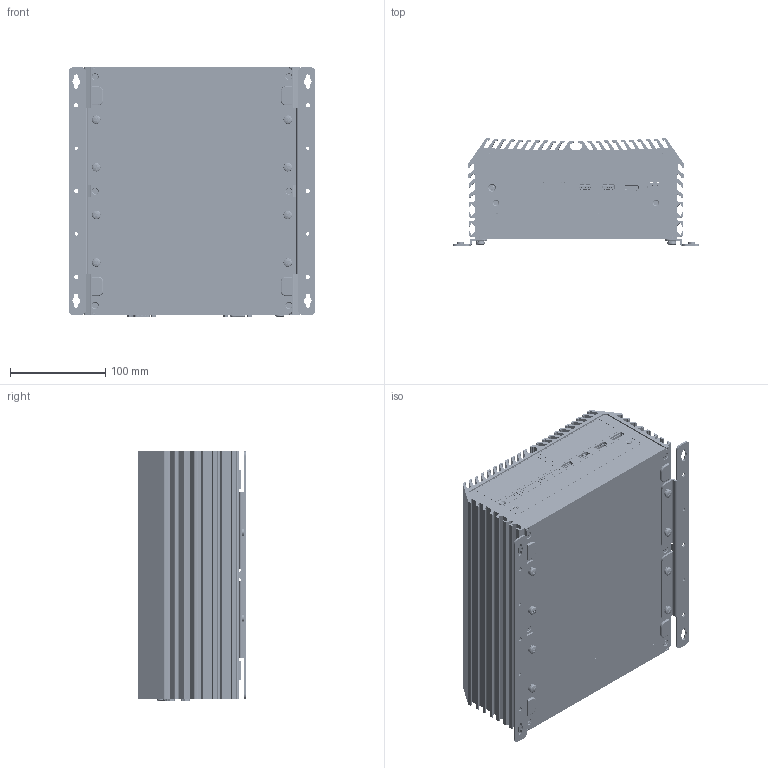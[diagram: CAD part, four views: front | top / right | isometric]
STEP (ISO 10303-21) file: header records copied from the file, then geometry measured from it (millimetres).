
FILE_DESCRIPTION (( 'STEP AP214' ), '1' );
FILE_NAME ('DS-1401-¼Ð·Ç-¥~Æ[-20230914.STEP', '2023-09-14T09:35:27', ( 'Owner' ), ( '' ), 'SwSTEP 2.0', 'SolidWorks 2014', '' );
FILE_SCHEMA (( 'AUTOMOTIVE_DESIGN' ));
Length unit declared in the file: millimetre
Products named in the file (38): DS-1301-Riser Card Bracket(M1-107130153400)-20210204; D330H1SL72211DD0; DS-1101-Riser Card Bracket-A(M1-107110153400); 23-D0351500040_CN2_MINIDIN_USBX2; DS-1301-Rear Bezel(M1-407130134100)-20200311; D20H1P1PA1X2A111N2 (3D); 銅柱-4-4OUNC-4.8_11.8H(M3-COSD6L00000)東莞?輝; AUTIO_2IN1; DS-1200-Front Bezel Matching Bezel(M1-407120084100); 23-D0351500040_CN1_ECHB350R-04P; DS-1300-Front Open Bezel(M1-407130084101); Screw-丸頭-十字-耐落-SW-M5x6(M3-SCREAB00001); DS-Wall Mount Bracket(M1-ZZZZ3611004); DS-1401-標準-外觀-20230914; DS-1300-Front Bezel-symbol_panel(M0-ZZZZ5C30009)-20200923; Hole Plugs(M4-RUBR0100004)-M06V0; DS-1301-Front Bezel(M1-407130124100)-20200311; Screw-丸頭-十字-外齒-M5x8(M3-SCREAB00002); Screw-沙拉-120-星型-T10+E型扣-黑-M3x13(M3-1103132270+M3-402004050415); DS-1400-PCBA-ASM-20230419; Screw-耐落-沙拉-90-星型-T10-黑-M3x8(M3-N103082260); DS-1400-Main Board asm-20221108; RUM2JA-KFJC-BCB-0R; DS-1200-Bottom Cover asm-20200406; WHDM-19FLBSDR; Rubber Foot Shore(M4-RUFT0100001); USB-3.0-SMT-T.H(122-0921NX0504); DS-1200-Bottom Cover(M1-407120011200)-20180821; PWR_BTN_TC003; Fuses Clips; DS-1201-Top Cover asm-金金-20180402; 23-D0341500030_DC_IN1_5EHDRM-03P_8; Top Cover(M1-407120106300)-DS-1201-金金-20181015; DS-1301-Riser Card Bracket asm-20210204; 23-D0341500040_FAN2_ECH350R_3P_1LAYER; L-Bracket(M0-LBKT2300017); 23-D0242300200_DP1_DISPLAYPORT; DS-MEC KIT-Universal Bracket(M1-ZZZZ3613001)
Assembly tree (65 placements, depth 4):
  DS-1401-標準-外觀-20230914
    DS-1400-PCBA-ASM-20230419
      DS-1400-Main Board asm-20221108
        23-D0351500040_CN1_ECHB350R-04P
        AUTIO_2IN1
        D20H1P1PA1X2A111N2 (3D)
        23-D0351500040_CN2_MINIDIN_USBX2
        D330H1SL72211DD0
        23-D0242300200_DP1_DISPLAYPORT  x2
        23-D0341500040_FAN2_ECH350R_3P_1LAYER
        23-D0341500030_DC_IN1_5EHDRM-03P_8
        Fuses Clips
        PWR_BTN_TC003
        USB-3.0-SMT-T.H(122-0921NX0504)  x2
        WHDM-19FLBSDR
        RUM2JA-KFJC-BCB-0R  x2
    DS-1301-Front Bezel(M1-407130124100)-20200311
    DS-1300-Front Bezel-symbol_panel(M0-ZZZZ5C30009)-20200923
    DS-1300-Front Open Bezel(M1-407130084101)
    DS-1200-Front Bezel Matching Bezel(M1-407120084100)  x2
    DS-1301-Rear Bezel(M1-407130134100)-20200311
    DS-MEC KIT-Universal Bracket(M1-ZZZZ3613001)  x2
    DS-1201-Top Cover asm-金金-20180402
      Top Cover(M1-407120106300)-DS-1201-金金-20181015
    DS-1200-Bottom Cover asm-20200406
      DS-1200-Bottom Cover(M1-407120011200)-20180821
      Rubber Foot Shore(M4-RUFT0100001)  x4
    Screw-耐落-沙拉-90-星型-T10-黑-M3x8(M3-N103082260)  x6
    Screw-沙拉-120-星型-T10+E型扣-黑-M3x13(M3-1103132270+M3-402004050415)  x2
    Screw-丸頭-十字-外齒-M5x8(M3-SCREAB00002)
    Hole Plugs(M4-RUBR0100004)-M06V0  x2
    DS-Wall Mount Bracket(M1-ZZZZ3611004)  x2
    Screw-丸頭-十字-耐落-SW-M5x6(M3-SCREAB00001)  x8
    銅柱-4-4OUNC-4.8_11.8H(M3-COSD6L00000)東莞?輝  x6
    DS-1301-Riser Card Bracket asm-20210204
      DS-1301-Riser Card Bracket(M1-107130153400)-20210204
        DS-1101-Riser Card Bracket-A(M1-107110153400)
      L-Bracket(M0-LBKT2300017)
Bounding box: 259 x 112.78 x 262.9 mm (x, y, z)
Volume: 1368794.2 mm3; surface area: 784327.3 mm2
Topology: 144 solids, 258 shells, 23411 faces, 65784 edges, 42485 vertices
Faces by surface type: plane 15430, cylinder 5680, bspline 2058, cone 149, torus 50, sphere 44
Entity records: 683590 total; most frequent: CARTESIAN_POINT 189734, ORIENTED_EDGE 89324, DIRECTION 70512, EDGE_CURVE 44775, VECTOR 30910, LINE 30910, VERTEX_POINT 29067, AXIS2_PLACEMENT_3D 19801
